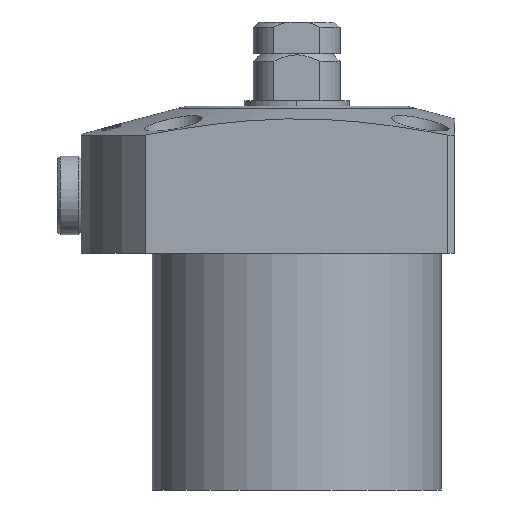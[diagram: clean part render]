
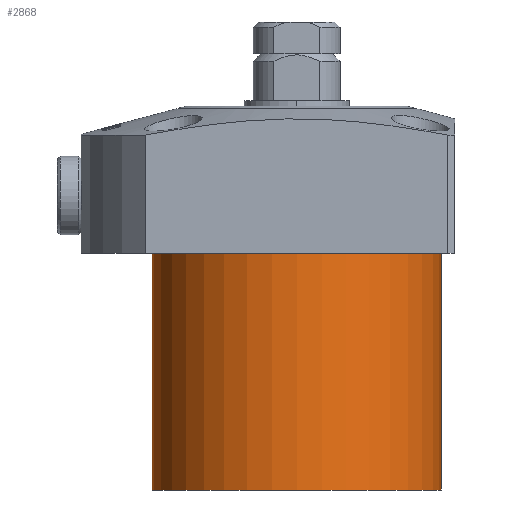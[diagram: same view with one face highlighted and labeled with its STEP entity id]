
A CAD part, front view. The second image highlights one B-rep face of the part: STEP entity #2868.
In plain terms, the highlighted cylindrical face has radius 27.5 mm (diameter 55 mm), a partial arc.
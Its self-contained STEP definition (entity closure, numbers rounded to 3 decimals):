
#126 = ORIENTED_EDGE ( 'NONE', *, *, #7742, .F. ) ;
#796 = LINE ( 'NONE', #2075, #5848 ) ;
#1324 = CARTESIAN_POINT ( 'NONE',  ( -27.5, 0., -45. ) ) ;
#2075 = CARTESIAN_POINT ( 'NONE',  ( 27.5, 0., -45. ) ) ;
#2296 = EDGE_CURVE ( 'NONE', #3024, #11020, #11329, .T. ) ;
#2868 = ADVANCED_FACE ( 'NONE', ( #5818 ), #10859, .T. ) ;
#2997 = CARTESIAN_POINT ( 'NONE',  ( 0., 0., 0. ) ) ;
#3024 = VERTEX_POINT ( 'NONE', #7303 ) ;
#3033 = VERTEX_POINT ( 'NONE', #11333 ) ;
#4024 = DIRECTION ( 'NONE',  ( 1., 0., 0. ) ) ;
#4119 = DIRECTION ( 'NONE',  ( 0., 0., 1. ) ) ;
#4873 = CARTESIAN_POINT ( 'NONE',  ( 27.5, 0., 0. ) ) ;
#5711 = EDGE_CURVE ( 'NONE', #10371, #3033, #11429, .T. ) ;
#5818 = FACE_OUTER_BOUND ( 'NONE', #9365, .T. ) ;
#5848 = VECTOR ( 'NONE', #4119, 1000. ) ;
#5854 = CARTESIAN_POINT ( 'NONE',  ( 0., 0., -45. ) ) ;
#6741 = AXIS2_PLACEMENT_3D ( 'NONE', #11106, #10142, #8102 ) ;
#6831 = VECTOR ( 'NONE', #6940, 1000. ) ;
#6851 = DIRECTION ( 'NONE',  ( 1., 0., 0. ) ) ;
#6940 = DIRECTION ( 'NONE',  ( 0., 0., 1. ) ) ;
#7148 = LINE ( 'NONE', #10973, #6831 ) ;
#7303 = CARTESIAN_POINT ( 'NONE',  ( -27.5, 0., 0. ) ) ;
#7625 = ORIENTED_EDGE ( 'NONE', *, *, #12075, .T. ) ;
#7742 = EDGE_CURVE ( 'NONE', #10371, #3024, #7148, .T. ) ;
#7923 = ORIENTED_EDGE ( 'NONE', *, *, #2296, .F. ) ;
#8102 = DIRECTION ( 'NONE',  ( 1., 0., 0. ) ) ;
#8775 = ORIENTED_EDGE ( 'NONE', *, *, #5711, .T. ) ;
#9365 = EDGE_LOOP ( 'NONE', ( #126, #8775, #7625, #7923 ) ) ;
#10069 = DIRECTION ( 'NONE',  ( 0., 0., 1. ) ) ;
#10142 = DIRECTION ( 'NONE',  ( 0., 0., 1. ) ) ;
#10371 = VERTEX_POINT ( 'NONE', #1324 ) ;
#10859 = CYLINDRICAL_SURFACE ( 'NONE', #6741, 27.5 ) ;
#10973 = CARTESIAN_POINT ( 'NONE',  ( -27.5, 0., -45. ) ) ;
#11020 = VERTEX_POINT ( 'NONE', #4873 ) ;
#11106 = CARTESIAN_POINT ( 'NONE',  ( 0., 0., -45. ) ) ;
#11329 = CIRCLE ( 'NONE', #11981, 27.5 ) ;
#11333 = CARTESIAN_POINT ( 'NONE',  ( 27.5, 0., -45. ) ) ;
#11429 = CIRCLE ( 'NONE', #12267, 27.5 ) ;
#11981 = AXIS2_PLACEMENT_3D ( 'NONE', #2997, #10069, #4024 ) ;
#12075 = EDGE_CURVE ( 'NONE', #3033, #11020, #796, .T. ) ;
#12267 = AXIS2_PLACEMENT_3D ( 'NONE', #5854, #12921, #6851 ) ;
#12921 = DIRECTION ( 'NONE',  ( 0., 0., 1. ) ) ;
